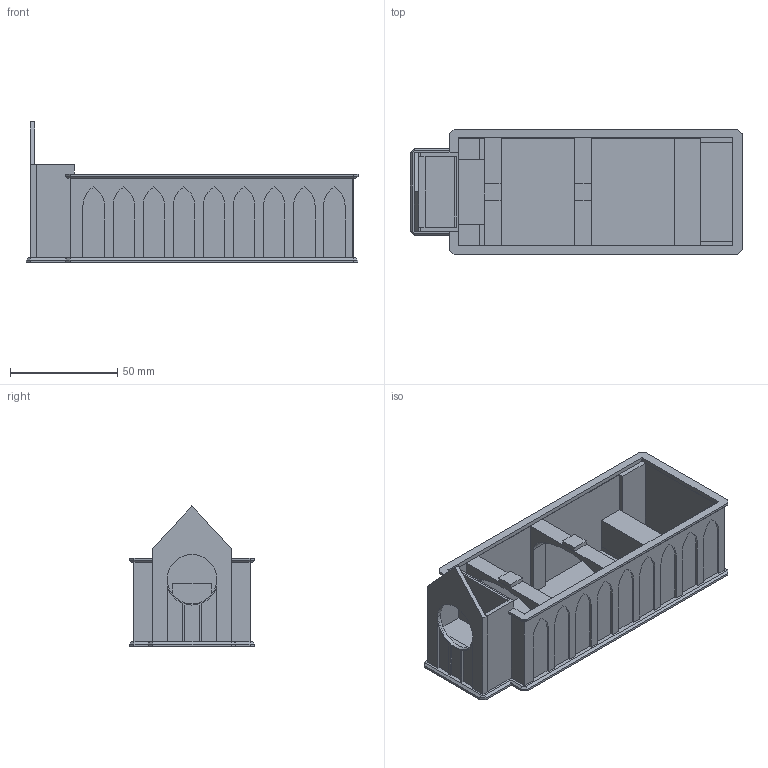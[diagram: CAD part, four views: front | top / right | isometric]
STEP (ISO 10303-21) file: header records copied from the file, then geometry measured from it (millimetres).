
FILE_DESCRIPTION(/* description */ (''),/* implementation_level */ '2;1');
FILE_NAME(/* name */ 'Prototype Dragon Base V2.2',/* time_stamp */ '2025-04-15T15:06:35-04:00',/* author */ (''),/* organization */ (''),/* preprocessor_version */ 'ST-DEVELOPER v19.2',/* originating_system */ 'Rhino 8.18',/* authorisation */ '');
FILE_SCHEMA (('CONFIG_CONTROL_DESIGN'));
Length unit declared in the file: millimetre
Products named in the file (1): Document
Bounding box: 154.5 x 58 x 65.3 mm (x, y, z)
Volume: 70430 mm3; surface area: 56266.5 mm2
Topology: 1 solids, 1 shells, 258 faces, 723 edges, 468 vertices
Faces by surface type: plane 209, bspline 44, cylinder 5
Entity records: 7834 total; most frequent: CARTESIAN_POINT 3028, ORIENTED_EDGE 1446, EDGE_CURVE 723, B_SPLINE_CURVE_WITH_KNOTS 623, VERTEX_POINT 468, EDGE_LOOP 267, ADVANCED_FACE 258, FACE_OUTER_BOUND 258
